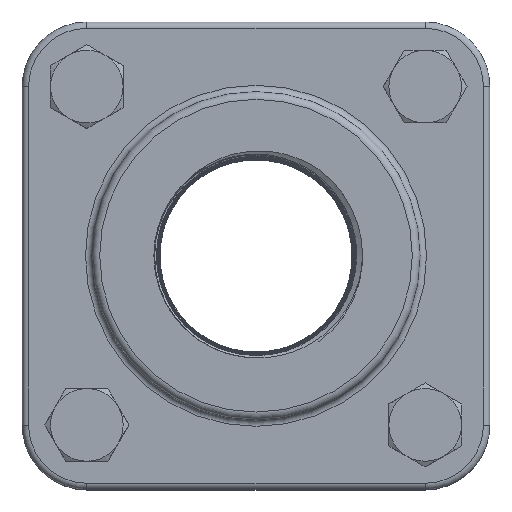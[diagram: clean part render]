
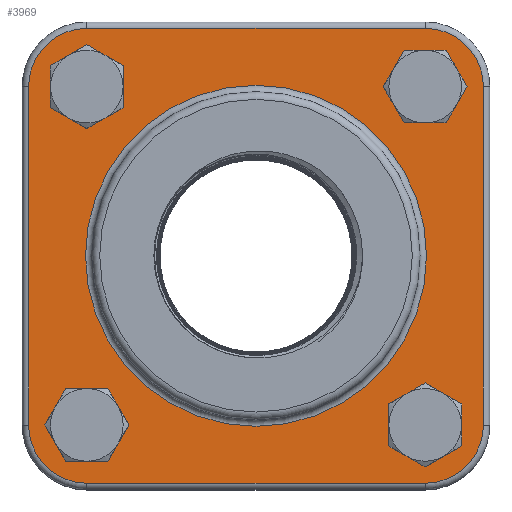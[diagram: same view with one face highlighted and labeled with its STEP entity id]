
A CAD part, top view. The second image highlights one B-rep face of the part: STEP entity #3969.
In plain terms, the highlighted planar face has unit normal (0, 0, 1).
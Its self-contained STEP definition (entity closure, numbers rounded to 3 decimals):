
#1149=VECTOR('',#4495,1.);
#1150=VECTOR('',#4498,1.);
#1151=VECTOR('',#4501,1.);
#1152=VECTOR('',#4504,1.);
#1294=LINE('',#5265,#1149);
#1295=LINE('',#5269,#1150);
#1296=LINE('',#5273,#1151);
#1297=LINE('',#5277,#1152);
#1549=PLANE('',#4167);
#1658=VERTEX_POINT('',#5260);
#1659=VERTEX_POINT('',#5263);
#1660=VERTEX_POINT('',#5264);
#1661=VERTEX_POINT('',#5266);
#1662=VERTEX_POINT('',#5268);
#1663=VERTEX_POINT('',#5270);
#1664=VERTEX_POINT('',#5272);
#1665=VERTEX_POINT('',#5274);
#1666=VERTEX_POINT('',#5276);
#1667=VERTEX_POINT('',#5279);
#1668=VERTEX_POINT('',#5281);
#1669=VERTEX_POINT('',#5283);
#1670=VERTEX_POINT('',#5285);
#1972=CIRCLE('',#4166,3.353);
#1973=CIRCLE('',#4168,1.143);
#1974=CIRCLE('',#4169,1.143);
#1975=CIRCLE('',#4170,1.143);
#1976=CIRCLE('',#4171,1.143);
#1977=CIRCLE('',#4172,0.525);
#1978=CIRCLE('',#4173,0.525);
#1979=CIRCLE('',#4174,0.525);
#1980=CIRCLE('',#4175,0.525);
#2077=EDGE_CURVE('',#1658,#1658,#1972,.T.);
#2078=EDGE_CURVE('',#1659,#1660,#1973,.T.);
#2079=EDGE_CURVE('',#1661,#1659,#1294,.T.);
#2080=EDGE_CURVE('',#1662,#1661,#1974,.T.);
#2081=EDGE_CURVE('',#1663,#1662,#1295,.T.);
#2082=EDGE_CURVE('',#1664,#1663,#1975,.T.);
#2083=EDGE_CURVE('',#1665,#1664,#1296,.T.);
#2084=EDGE_CURVE('',#1666,#1665,#1976,.T.);
#2085=EDGE_CURVE('',#1660,#1666,#1297,.T.);
#2086=EDGE_CURVE('',#1667,#1667,#1977,.T.);
#2087=EDGE_CURVE('',#1668,#1668,#1978,.T.);
#2088=EDGE_CURVE('',#1669,#1669,#1979,.T.);
#2089=EDGE_CURVE('',#1670,#1670,#1980,.T.);
#2562=ORIENTED_EDGE('',*,*,#2078,.F.);
#2563=ORIENTED_EDGE('',*,*,#2079,.F.);
#2564=ORIENTED_EDGE('',*,*,#2080,.F.);
#2565=ORIENTED_EDGE('',*,*,#2081,.F.);
#2566=ORIENTED_EDGE('',*,*,#2082,.F.);
#2567=ORIENTED_EDGE('',*,*,#2083,.F.);
#2568=ORIENTED_EDGE('',*,*,#2084,.F.);
#2569=ORIENTED_EDGE('',*,*,#2085,.F.);
#2570=ORIENTED_EDGE('',*,*,#2086,.F.);
#2571=ORIENTED_EDGE('',*,*,#2087,.F.);
#2572=ORIENTED_EDGE('',*,*,#2088,.F.);
#2573=ORIENTED_EDGE('',*,*,#2089,.F.);
#2574=ORIENTED_EDGE('',*,*,#2077,.F.);
#3519=EDGE_LOOP('',(#2562,#2563,#2564,#2565,#2566,#2567,#2568,#2569));
#3520=EDGE_LOOP('',(#2570));
#3521=EDGE_LOOP('',(#2571));
#3522=EDGE_LOOP('',(#2572));
#3523=EDGE_LOOP('',(#2573));
#3524=EDGE_LOOP('',(#2574));
#3746=FACE_BOUND('',#3519,.T.);
#3747=FACE_BOUND('',#3520,.T.);
#3748=FACE_BOUND('',#3521,.T.);
#3749=FACE_BOUND('',#3522,.T.);
#3750=FACE_BOUND('',#3523,.T.);
#3751=FACE_BOUND('',#3524,.T.);
#3969=ADVANCED_FACE('',(#3746,#3747,#3748,#3749,#3750,#3751),#1549,.T.);
#4166=AXIS2_PLACEMENT_3D('',#5259,#4490,#4491);
#4167=AXIS2_PLACEMENT_3D('',#5261,#4492,$);
#4168=AXIS2_PLACEMENT_3D('',#5262,#4493,#4494);
#4169=AXIS2_PLACEMENT_3D('',#5267,#4496,#4497);
#4170=AXIS2_PLACEMENT_3D('',#5271,#4499,#4500);
#4171=AXIS2_PLACEMENT_3D('',#5275,#4502,#4503);
#4172=AXIS2_PLACEMENT_3D('',#5278,#4505,#4506);
#4173=AXIS2_PLACEMENT_3D('',#5280,#4507,#4508);
#4174=AXIS2_PLACEMENT_3D('',#5282,#4509,#4510);
#4175=AXIS2_PLACEMENT_3D('',#5284,#4511,#4512);
#4490=DIRECTION('',(0.,0.,1.));
#4491=DIRECTION('',(-3.353,0.,0.));
#4492=DIRECTION('',(0.,0.,1.));
#4493=DIRECTION('',(0.,0.,-1.));
#4494=DIRECTION('',(0.808,0.808,0.));
#4495=DIRECTION('',(1.,0.,0.));
#4496=DIRECTION('',(0.,0.,-1.));
#4497=DIRECTION('',(-0.808,0.808,0.));
#4498=DIRECTION('',(0.,1.,0.));
#4499=DIRECTION('',(0.,0.,-1.));
#4500=DIRECTION('',(-0.808,-0.808,0.));
#4501=DIRECTION('',(-1.,0.,0.));
#4502=DIRECTION('',(0.,0.,-1.));
#4503=DIRECTION('',(0.808,-0.808,0.));
#4504=DIRECTION('',(0.,-1.,0.));
#4505=DIRECTION('',(0.,0.,1.));
#4506=DIRECTION('',(0.525,0.,0.));
#4507=DIRECTION('',(0.,0.,1.));
#4508=DIRECTION('',(0.525,0.,0.));
#4509=DIRECTION('',(0.,0.,1.));
#4510=DIRECTION('',(0.525,0.,0.));
#4511=DIRECTION('',(0.,0.,1.));
#4512=DIRECTION('',(0.525,0.,0.));
#5259=CARTESIAN_POINT('',(0.,0.,1.727));
#5260=CARTESIAN_POINT('',(3.353,0.,1.727));
#5261=CARTESIAN_POINT('',(0.,0.,1.727));
#5262=CARTESIAN_POINT('',(3.327,3.327,1.727));
#5263=CARTESIAN_POINT('',(3.327,4.47,1.727));
#5264=CARTESIAN_POINT('',(4.47,3.327,1.727));
#5265=CARTESIAN_POINT('',(0.,4.47,1.727));
#5266=CARTESIAN_POINT('',(-3.327,4.47,1.727));
#5267=CARTESIAN_POINT('',(-3.327,3.327,1.727));
#5268=CARTESIAN_POINT('',(-4.47,3.327,1.727));
#5269=CARTESIAN_POINT('',(-4.47,0.,1.727));
#5270=CARTESIAN_POINT('',(-4.47,-3.327,1.727));
#5271=CARTESIAN_POINT('',(-3.327,-3.327,1.727));
#5272=CARTESIAN_POINT('',(-3.327,-4.47,1.727));
#5273=CARTESIAN_POINT('',(0.,-4.47,1.727));
#5274=CARTESIAN_POINT('',(3.327,-4.47,1.727));
#5275=CARTESIAN_POINT('',(3.327,-3.327,1.727));
#5276=CARTESIAN_POINT('',(4.47,-3.327,1.727));
#5277=CARTESIAN_POINT('',(4.47,0.,1.727));
#5278=CARTESIAN_POINT('',(3.326,-3.326,1.727));
#5279=CARTESIAN_POINT('',(3.851,-3.326,1.727));
#5280=CARTESIAN_POINT('',(3.326,3.326,1.727));
#5281=CARTESIAN_POINT('',(3.851,3.326,1.727));
#5282=CARTESIAN_POINT('',(-3.326,3.326,1.727));
#5283=CARTESIAN_POINT('',(-2.802,3.326,1.727));
#5284=CARTESIAN_POINT('',(-3.326,-3.326,1.727));
#5285=CARTESIAN_POINT('',(-2.802,-3.326,1.727));
